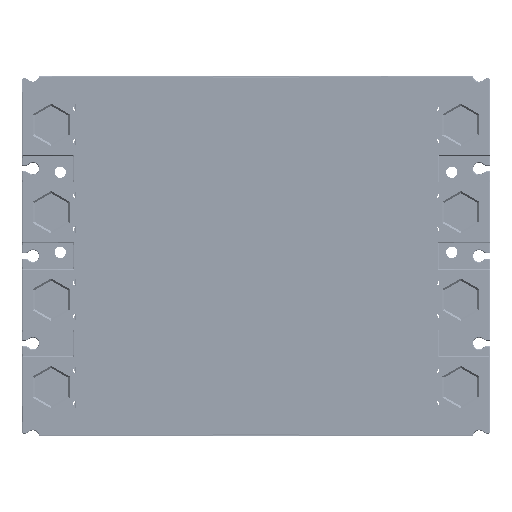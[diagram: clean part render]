
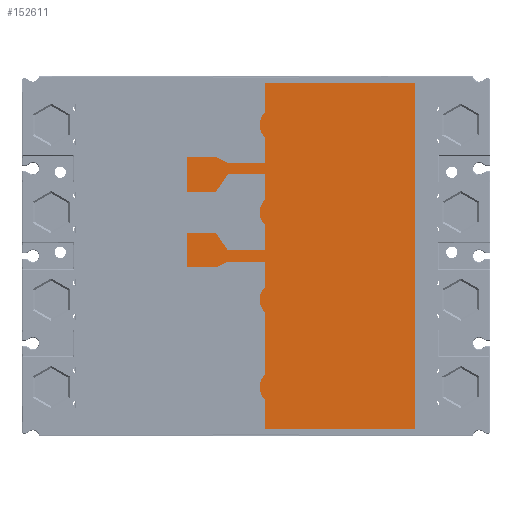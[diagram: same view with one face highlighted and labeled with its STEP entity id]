
A CAD part, front view. The second image highlights one B-rep face of the part: STEP entity #152611.
In plain terms, the highlighted planar face has unit normal (0, -1, 0) as drawn and (0, 0, -1) by its records, which use the part's own axes.
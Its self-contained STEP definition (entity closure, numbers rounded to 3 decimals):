
#152092=DIRECTION('',(0.,1.,0.));
#152093=VECTOR('',#152092,82.5);
#152094=CARTESIAN_POINT('',(119.,0.,0.));
#152095=LINE('',#152094,#152093);
#152096=DIRECTION('',(-1.,0.,0.));
#152097=VECTOR('',#152096,16.072);
#152098=CARTESIAN_POINT('',(119.,82.5,0.));
#152099=LINE('',#152098,#152097);
#152100=CARTESIAN_POINT('',(96.,76.,0.));
#152101=DIRECTION('',(0.,0.,1.));
#152102=DIRECTION('',(0.729,0.684,0.));
#152103=AXIS2_PLACEMENT_3D('',#152100,#152101,#152102);
#152105=DIRECTION('',(-1.,0.,0.));
#152106=VECTOR('',#152105,34.144);
#152107=CARTESIAN_POINT('',(89.072,82.5,0.));
#152108=LINE('',#152107,#152106);
#152109=CARTESIAN_POINT('',(48.,76.,0.));
#152110=DIRECTION('',(0.,0.,1.));
#152111=DIRECTION('',(0.729,0.684,0.));
#152112=AXIS2_PLACEMENT_3D('',#152109,#152110,#152111);
#152114=DIRECTION('',(-1.,0.,0.));
#152115=VECTOR('',#152114,13.972);
#152116=CARTESIAN_POINT('',(41.072,82.5,0.));
#152117=LINE('',#152116,#152115);
#152118=DIRECTION('',(0.,1.,0.));
#152119=VECTOR('',#152118,20.5);
#152120=CARTESIAN_POINT('',(27.1,82.5,0.));
#152121=LINE('',#152120,#152119);
#152122=DIRECTION('',(0.436,0.9,0.));
#152123=VECTOR('',#152122,7.223);
#152124=CARTESIAN_POINT('',(27.1,103.,0.));
#152125=LINE('',#152124,#152123);
#152126=DIRECTION('',(0.,1.,0.));
#152127=VECTOR('',#152126,16.);
#152128=CARTESIAN_POINT('',(30.25,109.5,0.));
#152129=LINE('',#152128,#152127);
#152130=DIRECTION('',(-1.,0.,0.));
#152131=VECTOR('',#152130,19.);
#152132=CARTESIAN_POINT('',(30.25,125.5,0.));
#152133=LINE('',#152132,#152131);
#152134=DIRECTION('',(0.,-1.,0.));
#152135=VECTOR('',#152134,16.);
#152136=CARTESIAN_POINT('',(11.25,125.5,0.));
#152137=LINE('',#152136,#152135);
#152138=DIRECTION('',(0.829,-0.559,0.));
#152139=VECTOR('',#152138,11.635);
#152140=CARTESIAN_POINT('',(11.25,109.5,0.));
#152141=LINE('',#152140,#152139);
#152142=DIRECTION('',(0.,-1.,0.));
#152143=VECTOR('',#152142,20.5);
#152144=CARTESIAN_POINT('',(20.9,103.,0.));
#152145=LINE('',#152144,#152143);
#152146=DIRECTION('',(-1.,0.,0.));
#152147=VECTOR('',#152146,13.972);
#152148=CARTESIAN_POINT('',(20.9,82.5,0.));
#152149=LINE('',#152148,#152147);
#152150=CARTESIAN_POINT('',(0.,76.,0.));
#152151=DIRECTION('',(0.,0.,1.));
#152152=DIRECTION('',(0.729,0.684,0.));
#152153=AXIS2_PLACEMENT_3D('',#152150,#152151,#152152);
#152155=DIRECTION('',(-1.,0.,0.));
#152156=VECTOR('',#152155,13.972);
#152157=CARTESIAN_POINT('',(-6.928,82.5,0.));
#152158=LINE('',#152157,#152156);
#152159=DIRECTION('',(0.,1.,0.));
#152160=VECTOR('',#152159,20.5);
#152161=CARTESIAN_POINT('',(-20.9,82.5,0.));
#152162=LINE('',#152161,#152160);
#152163=DIRECTION('',(0.829,0.559,0.));
#152164=VECTOR('',#152163,11.635);
#152165=CARTESIAN_POINT('',(-20.9,103.,0.));
#152166=LINE('',#152165,#152164);
#152167=DIRECTION('',(0.,1.,0.));
#152168=VECTOR('',#152167,16.);
#152169=CARTESIAN_POINT('',(-11.25,109.5,0.));
#152170=LINE('',#152169,#152168);
#152171=DIRECTION('',(-1.,0.,0.));
#152172=VECTOR('',#152171,19.);
#152173=CARTESIAN_POINT('',(-11.25,125.5,0.));
#152174=LINE('',#152173,#152172);
#152175=DIRECTION('',(0.,-1.,0.));
#152176=VECTOR('',#152175,16.);
#152177=CARTESIAN_POINT('',(-30.25,125.5,0.));
#152178=LINE('',#152177,#152176);
#152179=DIRECTION('',(0.436,-0.9,0.));
#152180=VECTOR('',#152179,7.223);
#152181=CARTESIAN_POINT('',(-30.25,109.5,0.));
#152182=LINE('',#152181,#152180);
#152183=DIRECTION('',(0.,-1.,0.));
#152184=VECTOR('',#152183,20.5);
#152185=CARTESIAN_POINT('',(-27.1,103.,0.));
#152186=LINE('',#152185,#152184);
#152187=DIRECTION('',(-1.,0.,0.));
#152188=VECTOR('',#152187,13.972);
#152189=CARTESIAN_POINT('',(-27.1,82.5,0.));
#152190=LINE('',#152189,#152188);
#152191=CARTESIAN_POINT('',(-48.,76.,0.));
#152192=DIRECTION('',(0.,0.,1.));
#152193=DIRECTION('',(0.729,0.684,0.));
#152194=AXIS2_PLACEMENT_3D('',#152191,#152192,#152193);
#152196=DIRECTION('',(-1.,0.,0.));
#152197=VECTOR('',#152196,16.072);
#152198=CARTESIAN_POINT('',(-54.928,82.5,0.));
#152199=LINE('',#152198,#152197);
#152200=DIRECTION('',(0.,-1.,0.));
#152201=VECTOR('',#152200,82.5);
#152202=CARTESIAN_POINT('',(-71.,82.5,0.));
#152203=LINE('',#152202,#152201);
#152204=DIRECTION('',(-1.,0.,0.));
#152205=VECTOR('',#152204,190.);
#152206=CARTESIAN_POINT('',(119.,0.,0.));
#152207=LINE('',#152206,#152205);
#152436=CARTESIAN_POINT('',(-20.9,103.,0.));
#152437=CARTESIAN_POINT('',(-11.25,109.5,0.));
#152438=VERTEX_POINT('',#152436);
#152439=VERTEX_POINT('',#152437);
#152440=CARTESIAN_POINT('',(-11.25,125.5,0.));
#152441=VERTEX_POINT('',#152440);
#152442=CARTESIAN_POINT('',(-30.25,125.5,0.));
#152443=VERTEX_POINT('',#152442);
#152444=CARTESIAN_POINT('',(-30.25,109.5,0.));
#152445=VERTEX_POINT('',#152444);
#152446=CARTESIAN_POINT('',(-27.1,103.,0.));
#152447=VERTEX_POINT('',#152446);
#152448=CARTESIAN_POINT('',(27.1,103.,0.));
#152449=CARTESIAN_POINT('',(30.25,109.5,0.));
#152450=VERTEX_POINT('',#152448);
#152451=VERTEX_POINT('',#152449);
#152452=CARTESIAN_POINT('',(30.25,125.5,0.));
#152453=VERTEX_POINT('',#152452);
#152454=CARTESIAN_POINT('',(11.25,125.5,0.));
#152455=VERTEX_POINT('',#152454);
#152456=CARTESIAN_POINT('',(11.25,109.5,0.));
#152457=VERTEX_POINT('',#152456);
#152458=CARTESIAN_POINT('',(20.9,103.,0.));
#152459=VERTEX_POINT('',#152458);
#152484=CARTESIAN_POINT('',(119.,0.,0.));
#152485=CARTESIAN_POINT('',(119.,82.5,0.));
#152486=VERTEX_POINT('',#152484);
#152487=VERTEX_POINT('',#152485);
#152488=CARTESIAN_POINT('',(102.928,82.5,0.));
#152489=VERTEX_POINT('',#152488);
#152490=CARTESIAN_POINT('',(54.928,82.5,0.));
#152491=CARTESIAN_POINT('',(41.072,82.5,0.));
#152492=VERTEX_POINT('',#152490);
#152493=VERTEX_POINT('',#152491);
#152494=CARTESIAN_POINT('',(6.928,82.5,0.));
#152495=CARTESIAN_POINT('',(-6.928,82.5,0.));
#152496=VERTEX_POINT('',#152494);
#152497=VERTEX_POINT('',#152495);
#152498=CARTESIAN_POINT('',(-41.072,82.5,0.));
#152499=CARTESIAN_POINT('',(-54.928,82.5,0.));
#152500=VERTEX_POINT('',#152498);
#152501=VERTEX_POINT('',#152499);
#152502=CARTESIAN_POINT('',(-71.,82.5,0.));
#152503=VERTEX_POINT('',#152502);
#152525=CARTESIAN_POINT('',(-20.9,82.5,0.));
#152527=VERTEX_POINT('',#152525);
#152529=CARTESIAN_POINT('',(-27.1,82.5,0.));
#152531=VERTEX_POINT('',#152529);
#152533=CARTESIAN_POINT('',(27.1,82.5,0.));
#152535=VERTEX_POINT('',#152533);
#152537=CARTESIAN_POINT('',(20.9,82.5,0.));
#152539=VERTEX_POINT('',#152537);
#152542=CARTESIAN_POINT('',(-71.,0.,0.));
#152543=VERTEX_POINT('',#152542);
#152544=CARTESIAN_POINT('',(89.072,82.5,0.));
#152545=VERTEX_POINT('',#152544);
#152548=CARTESIAN_POINT('',(0.,0.,0.));
#152549=DIRECTION('',(0.,0.,1.));
#152550=DIRECTION('',(1.,0.,0.));
#152551=AXIS2_PLACEMENT_3D('',#152548,#152549,#152550);
#152552=PLANE('',#152551);
#152554=ORIENTED_EDGE('',*,*,#152553,.F.);
#152556=ORIENTED_EDGE('',*,*,#152555,.T.);
#152558=ORIENTED_EDGE('',*,*,#152557,.T.);
#152560=ORIENTED_EDGE('',*,*,#152559,.T.);
#152562=ORIENTED_EDGE('',*,*,#152561,.T.);
#152564=ORIENTED_EDGE('',*,*,#152563,.T.);
#152566=ORIENTED_EDGE('',*,*,#152565,.T.);
#152568=ORIENTED_EDGE('',*,*,#152567,.T.);
#152570=ORIENTED_EDGE('',*,*,#152569,.T.);
#152572=ORIENTED_EDGE('',*,*,#152571,.T.);
#152574=ORIENTED_EDGE('',*,*,#152573,.T.);
#152576=ORIENTED_EDGE('',*,*,#152575,.T.);
#152578=ORIENTED_EDGE('',*,*,#152577,.T.);
#152580=ORIENTED_EDGE('',*,*,#152579,.T.);
#152582=ORIENTED_EDGE('',*,*,#152581,.T.);
#152584=ORIENTED_EDGE('',*,*,#152583,.T.);
#152586=ORIENTED_EDGE('',*,*,#152585,.T.);
#152588=ORIENTED_EDGE('',*,*,#152587,.T.);
#152590=ORIENTED_EDGE('',*,*,#152589,.T.);
#152592=ORIENTED_EDGE('',*,*,#152591,.T.);
#152594=ORIENTED_EDGE('',*,*,#152593,.T.);
#152596=ORIENTED_EDGE('',*,*,#152595,.T.);
#152598=ORIENTED_EDGE('',*,*,#152597,.T.);
#152600=ORIENTED_EDGE('',*,*,#152599,.T.);
#152602=ORIENTED_EDGE('',*,*,#152601,.T.);
#152604=ORIENTED_EDGE('',*,*,#152603,.T.);
#152606=ORIENTED_EDGE('',*,*,#152605,.T.);
#152608=ORIENTED_EDGE('',*,*,#152607,.T.);
#152609=EDGE_LOOP('',(#152554,#152556,#152558,#152560,#152562,#152564,#152566,
#152568,#152570,#152572,#152574,#152576,#152578,#152580,#152582,#152584,#152586,
#152588,#152590,#152592,#152594,#152596,#152598,#152600,#152602,#152604,#152606,
#152608));
#152610=FACE_OUTER_BOUND('',#152609,.F.);
#152611=ADVANCED_FACE('',(#152610),#152552,.F.);
#152104=CIRCLE('',#152103,9.5);
#152113=CIRCLE('',#152112,9.5);
#152154=CIRCLE('',#152153,9.5);
#152195=CIRCLE('',#152194,9.5);
#152553=EDGE_CURVE('',#152486,#152543,#152207,.T.);
#152555=EDGE_CURVE('',#152486,#152487,#152095,.T.);
#152557=EDGE_CURVE('',#152487,#152489,#152099,.T.);
#152559=EDGE_CURVE('',#152489,#152545,#152104,.T.);
#152561=EDGE_CURVE('',#152545,#152492,#152108,.T.);
#152563=EDGE_CURVE('',#152492,#152493,#152113,.T.);
#152565=EDGE_CURVE('',#152493,#152535,#152117,.T.);
#152567=EDGE_CURVE('',#152535,#152450,#152121,.T.);
#152569=EDGE_CURVE('',#152450,#152451,#152125,.T.);
#152571=EDGE_CURVE('',#152451,#152453,#152129,.T.);
#152573=EDGE_CURVE('',#152453,#152455,#152133,.T.);
#152575=EDGE_CURVE('',#152455,#152457,#152137,.T.);
#152577=EDGE_CURVE('',#152457,#152459,#152141,.T.);
#152579=EDGE_CURVE('',#152459,#152539,#152145,.T.);
#152581=EDGE_CURVE('',#152539,#152496,#152149,.T.);
#152583=EDGE_CURVE('',#152496,#152497,#152154,.T.);
#152585=EDGE_CURVE('',#152497,#152527,#152158,.T.);
#152587=EDGE_CURVE('',#152527,#152438,#152162,.T.);
#152589=EDGE_CURVE('',#152438,#152439,#152166,.T.);
#152591=EDGE_CURVE('',#152439,#152441,#152170,.T.);
#152593=EDGE_CURVE('',#152441,#152443,#152174,.T.);
#152595=EDGE_CURVE('',#152443,#152445,#152178,.T.);
#152597=EDGE_CURVE('',#152445,#152447,#152182,.T.);
#152599=EDGE_CURVE('',#152447,#152531,#152186,.T.);
#152601=EDGE_CURVE('',#152531,#152500,#152190,.T.);
#152603=EDGE_CURVE('',#152500,#152501,#152195,.T.);
#152605=EDGE_CURVE('',#152501,#152503,#152199,.T.);
#152607=EDGE_CURVE('',#152503,#152543,#152203,.T.);
